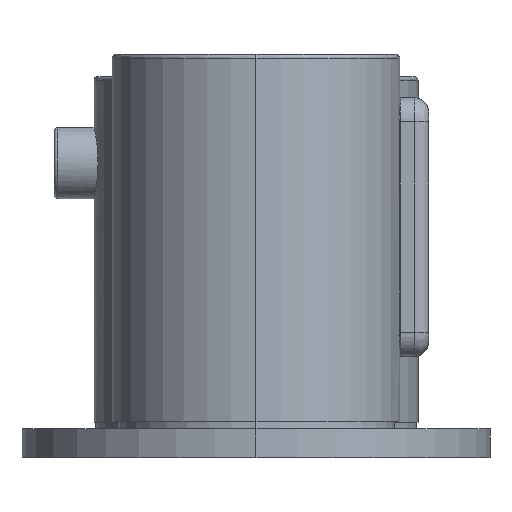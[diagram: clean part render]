
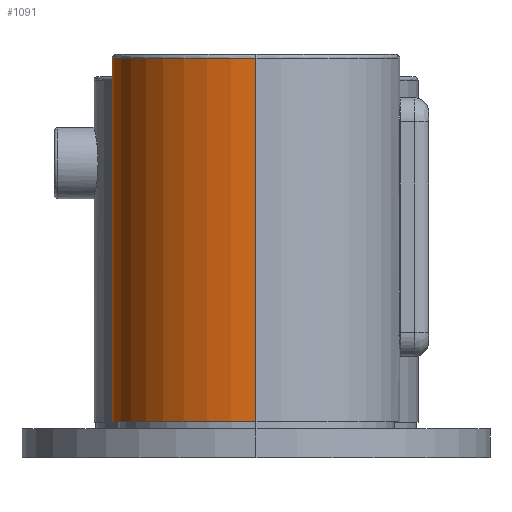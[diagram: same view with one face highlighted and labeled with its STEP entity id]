
A CAD part, left-side view. The second image highlights one B-rep face of the part: STEP entity #1091.
In plain terms, the highlighted cylindrical face has radius 20 mm (diameter 40 mm), a partial arc.
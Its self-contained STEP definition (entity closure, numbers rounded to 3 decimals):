
#915=CARTESIAN_POINT('',(-110.0,0.0,55.5));
#916=VERTEX_POINT('',#915);
#917=CARTESIAN_POINT('',(-110.0,0.0,5.0));
#918=VERTEX_POINT('',#917);
#919=CARTESIAN_POINT('',(-110.0,0.0,55.5));
#920=DIRECTION('',(0.0,0.0,-1.0));
#921=VECTOR('',#920,50.5);
#922=LINE('',#919,#921);
#923=EDGE_CURVE('',#916,#918,#922,.T.);
#925=CARTESIAN_POINT('',(-70.0,0.0,5.0));
#926=VERTEX_POINT('',#925);
#934=CARTESIAN_POINT('',(-70.0,0.0,55.5));
#935=VERTEX_POINT('',#934);
#936=CARTESIAN_POINT('',(-70.0,0.0,55.5));
#937=DIRECTION('',(0.0,0.0,-1.0));
#938=VECTOR('',#937,50.5);
#939=LINE('',#936,#938);
#940=EDGE_CURVE('',#935,#926,#939,.T.);
#1062=CARTESIAN_POINT('',(-90.0,0.0,55.5));
#1063=DIRECTION('',(0.0,0.0,1.0));
#1064=DIRECTION('',(1.0,0.0,0.0));
#1065=AXIS2_PLACEMENT_3D('',#1062,#1063,#1064);
#1066=CIRCLE('',#1065,20.0);
#1067=EDGE_CURVE('',#935,#916,#1066,.T.);
#1074=CARTESIAN_POINT('',(-90.0,0.0,55.5));
#1075=DIRECTION('',(0.0,0.0,-1.0));
#1076=DIRECTION('',(0.0,-1.0,0.0));
#1077=AXIS2_PLACEMENT_3D('',#1074,#1075,#1076);
#1078=CYLINDRICAL_SURFACE('',#1077,20.0);
#1079=ORIENTED_EDGE('',*,*,#940,.T.);
#1080=CARTESIAN_POINT('',(-90.0,0.0,5.0));
#1081=DIRECTION('',(0.0,0.0,-1.0));
#1082=DIRECTION('',(-1.0,0.0,0.0));
#1083=AXIS2_PLACEMENT_3D('',#1080,#1081,#1082);
#1084=CIRCLE('',#1083,20.0);
#1085=EDGE_CURVE('',#918,#926,#1084,.T.);
#1086=ORIENTED_EDGE('',*,*,#1085,.F.);
#1087=ORIENTED_EDGE('',*,*,#923,.F.);
#1088=ORIENTED_EDGE('',*,*,#1067,.F.);
#1089=EDGE_LOOP('',(#1079,#1086,#1087,#1088));
#1090=FACE_OUTER_BOUND('',#1089,.T.);
#1091=ADVANCED_FACE('',(#1090),#1078,.T.);
